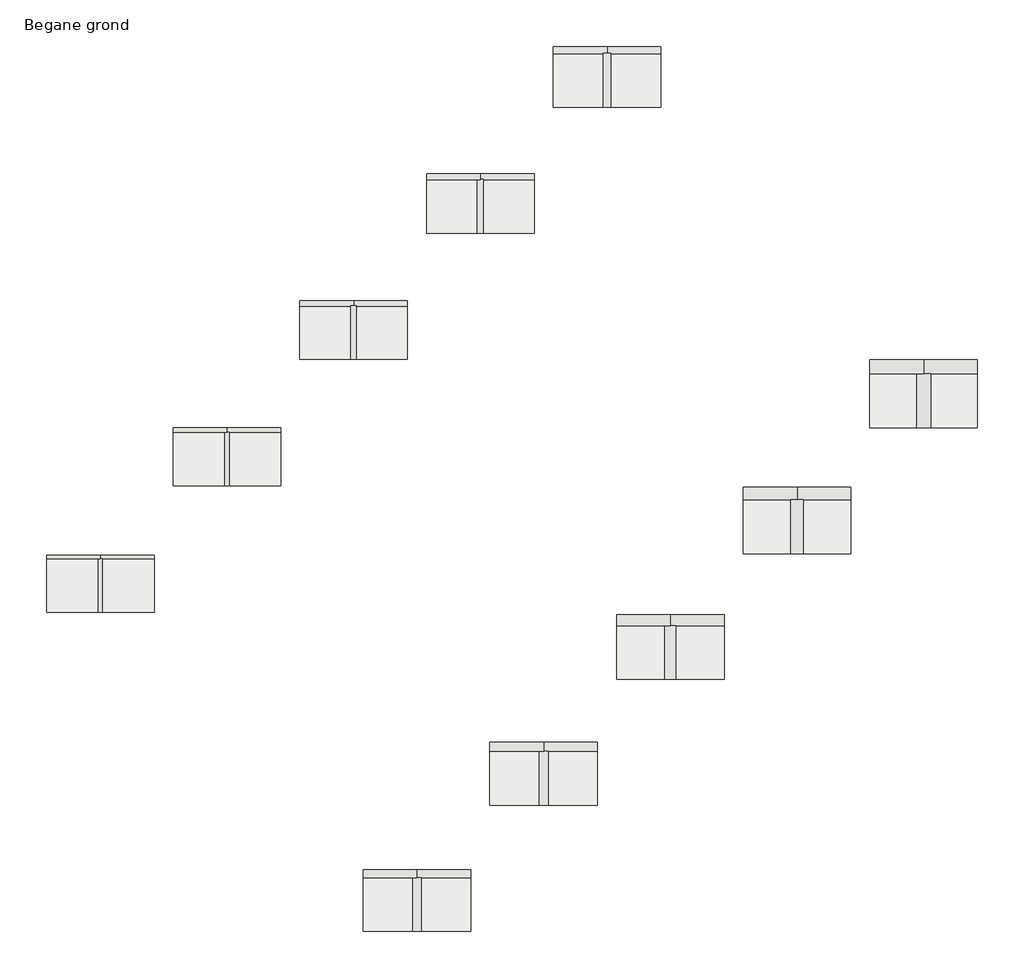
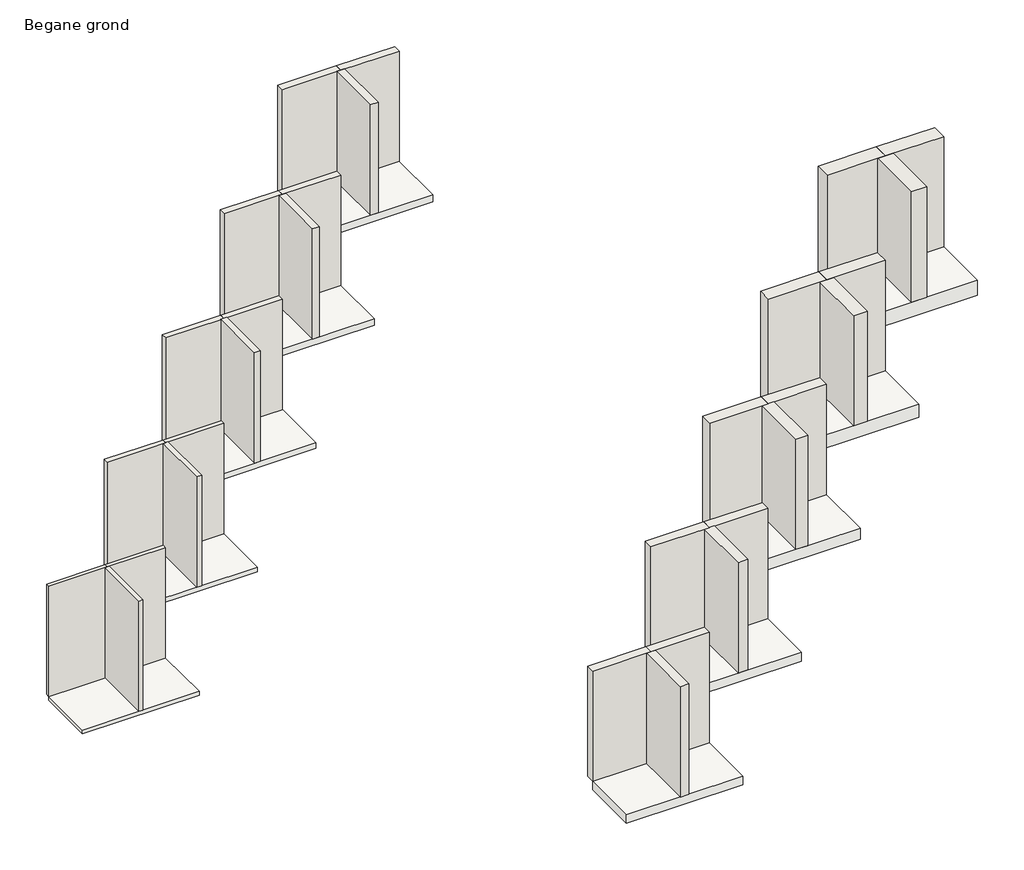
# One storey: 30 walls, 10 slabs.
"""IFC4 building model written with IfcOpenShell, lengths in millimetres."""

from ifc_helpers import new_model, si_unit, frame, origin, origin_with_axes, place, context, project, spatial, polyline, outline, extrude, element, save

model = new_model("IFC4")

# Units and contexts
model_context = context("Model", 3, world=origin())
ifc_project = project(units=[si_unit("LENGTHUNIT", "METRE", prefix="MILLI")], contexts=[model_context])

# Site, building, storey
site = spatial("IfcSite", under=ifc_project)
building = spatial("IfcBuilding", under=site)
storey = spatial("IfcBuildingStorey", under=building, Name="Begane grond", Elevation=0.0)

# Slabs
placement = place(None, origin())
element("IfcSlab", 1, ObjectType="NLRS_23_FL_Rock4all_100x600x1200mm", at=placement, inside=storey, context=model_context, shape_type="SweptSolid", body=[
    extrude(outline(polyline([(7096.3838542, 322.4422537), (7096.3838542, -277.5577463), (5896.3838542, -277.5577463), (5896.3838542, 322.4422537), (7096.3838542, 322.4422537)])), frame((0.0, 0.0, -100.0), z_axis=(0.0, 0.0, 1.0), x_axis=(1.0, 0.0, 0.0)), (0.0, 0.0, 1.0), 100.0),
])
element("IfcSlab", 2, ObjectType="NLRS_23_FL_Rock4all_120x600x1200mm", at=placement, inside=storey, context=model_context, shape_type="SweptSolid", body=[
    extrude(outline(polyline([(8510.5974166, 1726.655816), (8510.5974166, 1126.655816), (7310.5974166, 1126.655816), (7310.5974166, 1726.655816), (8510.5974166, 1726.655816)])), frame((0.0, 0.0, -120.0), z_axis=(0.0, 0.0, 1.0), x_axis=(1.0, 0.0, 0.0)), (0.0, 0.0, 1.0), 120.0),
])
element("IfcSlab", 3, ObjectType="NLRS_23_FL_Rock4all_140x600x1200mm", at=placement, inside=storey, context=model_context, shape_type="SweptSolid", body=[
    extrude(outline(polyline([(9924.810979, 3130.8693784), (9924.810979, 2530.8693784), (8724.810979, 2530.8693784), (8724.810979, 3130.8693784), (9924.810979, 3130.8693784)])), frame((0.0, 0.0, -140.0), z_axis=(0.0, 0.0, 1.0), x_axis=(1.0, 0.0, 0.0)), (0.0, 0.0, 1.0), 140.0),
])
element("IfcSlab", 4, ObjectType="NLRS_23_FL_Rock4all_160x600x1200mm", at=placement, inside=storey, context=model_context, shape_type="SweptSolid", body=[
    extrude(outline(polyline([(11339.0245414, 4535.0829408), (11339.0245414, 3935.0829408), (10139.0245414, 3935.0829408), (10139.0245414, 4535.0829408), (11339.0245414, 4535.0829408)])), frame((0.0, 0.0, -160.0), z_axis=(0.0, 0.0, 1.0), x_axis=(1.0, 0.0, 0.0)), (0.0, 0.0, 1.0), 160.0),
])
element("IfcSlab", 5, ObjectType="NLRS_23_FL_Rock4all_40x600x1200mm", at=placement, inside=storey, context=model_context, shape_type="SweptSolid", body=[
    extrude(outline(polyline([(946.6363859, 2473.7625972), (2146.6363859, 2473.7625972), (2146.6363859, 1873.7625972), (946.6363859, 1873.7625972), (946.6363859, 2473.7625972)])), frame((0.0, 0.0, -40.0), z_axis=(0.0, 0.0, 1.0), x_axis=(1.0, 0.0, 0.0)), (0.0, 0.0, 1.0), 40.0),
])
element("IfcSlab", 6, ObjectType="NLRS_23_FL_Rock4all_50x600x1200mm", at=placement, inside=storey, context=model_context, shape_type="SweptSolid", body=[
    extrude(outline(polyline([(2360.8499483, 3885.4761596), (3560.8499483, 3885.4761596), (3560.8499483, 3285.4761596), (2360.8499483, 3285.4761596), (2360.8499483, 3885.4761596)])), frame((0.0, 0.0, -50.0), z_axis=(0.0, 0.0, 1.0), x_axis=(1.0, 0.0, 0.0)), (0.0, 0.0, 1.0), 50.0),
])
element("IfcSlab", 7, ObjectType="NLRS_23_FL_Rock4all_60x600x1200mm", at=placement, inside=storey, context=model_context, shape_type="SweptSolid", body=[
    extrude(outline(polyline([(3775.0635107, 5297.189722), (4975.0635107, 5297.189722), (4975.0635107, 4697.189722), (3775.0635107, 4697.189722), (3775.0635107, 5297.189722)])), frame((0.0, 0.0, -60.0), z_axis=(0.0, 0.0, 1.0), x_axis=(1.0, 0.0, 0.0)), (0.0, 0.0, 1.0), 60.0),
])
element("IfcSlab", 8, ObjectType="NLRS_23_FL_Rock4all_70x600x1200mm", at=placement, inside=storey, context=model_context, shape_type="SweptSolid", body=[
    extrude(outline(polyline([(5189.2770731, 6706.4032843), (6389.2770731, 6706.4032843), (6389.2770731, 6106.4032843), (5189.2770731, 6106.4032843), (5189.2770731, 6706.4032843)])), frame((0.0, 0.0, -70.0), z_axis=(0.0, 0.0, 1.0), x_axis=(1.0, 0.0, 0.0)), (0.0, 0.0, 1.0), 70.0),
])
element("IfcSlab", 9, ObjectType="NLRS_23_FL_Rock4all_80x600x1200mm", at=placement, inside=storey, context=model_context, shape_type="SweptSolid", body=[
    extrude(outline(polyline([(7803.4906354, 8115.6168467), (7803.4906354, 7515.6168467), (6603.4906354, 7515.6168467), (6603.4906354, 8115.6168467), (7803.4906354, 8115.6168467)])), frame((0.0, 0.0, -80.0), z_axis=(0.0, 0.0, 1.0), x_axis=(1.0, 0.0, 0.0)), (0.0, 0.0, 1.0), 80.0),
])
element("IfcSlab", 10, ObjectType="NLRS_23_FL_Rock4all_90x600x1200mm", at=placement, inside=storey, context=model_context, shape_type="SweptSolid", body=[
    extrude(outline(polyline([(5682.1702919, -1086.7713087), (5682.1702919, -1686.7713087), (4482.1702919, -1686.7713087), (4482.1702919, -1086.7713087), (5682.1702919, -1086.7713087)])), frame((0.0, 0.0, -90.0), z_axis=(0.0, 0.0, 1.0), x_axis=(1.0, 0.0, 0.0)), (0.0, 0.0, 1.0), 90.0),
])

# Walls
element("IfcWall", 11, ObjectType="NLRS_22_WA_Rock4all_100x600x1200mm", at=placement, inside=storey, context=model_context, shape_type="SweptSolid", body=[
    extrude(outline(polyline([(6496.3838542, 322.4422537), (5896.3838542, 322.4422537), (5896.3838542, 422.4422537), (6496.3838542, 422.4422537), (6496.3838542, 322.4422537)])), origin_with_axes(), (0.0, 0.0, 1.0), 1200.0),
])
element("IfcWall", 12, ObjectType="NLRS_22_WA_Rock4all_100x600x1200mm", at=placement, inside=storey, context=model_context, shape_type="SweptSolid", body=[
    extrude(outline(polyline([(6446.3838542, -277.5577463), (6446.3838542, 322.4422537), (6546.3838542, 322.4422537), (6546.3838542, -277.5577463), (6446.3838542, -277.5577463)])), origin_with_axes(), (0.0, 0.0, 1.0), 1200.0),
])
element("IfcWall", 13, ObjectType="NLRS_22_WA_Rock4all_100x600x1200mm", at=placement, inside=storey, context=model_context, shape_type="SweptSolid", body=[
    extrude(outline(polyline([(7096.3838542, 322.4422537), (6496.3838542, 322.4422537), (6496.3838542, 422.4422537), (7096.3838542, 422.4422537), (7096.3838542, 322.4422537)])), origin_with_axes(), (0.0, 0.0, 1.0), 1200.0),
])
element("IfcWall", 14, ObjectType="NLRS_22_WA_Rock4all_120x600x1200mm", at=placement, inside=storey, context=model_context, shape_type="SweptSolid", body=[
    extrude(outline(polyline([(7910.5974166, 1726.655816), (7310.5974166, 1726.655816), (7310.5974166, 1846.655816), (7910.5974166, 1846.655816), (7910.5974166, 1726.655816)])), origin_with_axes(), (0.0, 0.0, 1.0), 1200.0),
])
element("IfcWall", 15, ObjectType="NLRS_22_WA_Rock4all_120x600x1200mm", at=placement, inside=storey, context=model_context, shape_type="SweptSolid", body=[
    extrude(outline(polyline([(7850.5974166, 1126.655816), (7850.5974166, 1726.655816), (7970.5974166, 1726.655816), (7970.5974166, 1126.655816), (7850.5974166, 1126.655816)])), origin_with_axes(), (0.0, 0.0, 1.0), 1200.0),
])
element("IfcWall", 16, ObjectType="NLRS_22_WA_Rock4all_120x600x1200mm", at=placement, inside=storey, context=model_context, shape_type="SweptSolid", body=[
    extrude(outline(polyline([(8510.5974166, 1726.655816), (7910.5974166, 1726.655816), (7910.5974166, 1846.655816), (8510.5974166, 1846.655816), (8510.5974166, 1726.655816)])), origin_with_axes(), (0.0, 0.0, 1.0), 1200.0),
])
element("IfcWall", 17, ObjectType="NLRS_22_WA_Rock4all_140x600x1200mm", at=placement, inside=storey, context=model_context, shape_type="SweptSolid", body=[
    extrude(outline(polyline([(9324.810979, 3130.8693784), (8724.810979, 3130.8693784), (8724.810979, 3270.8693784), (9324.810979, 3270.8693784), (9324.810979, 3130.8693784)])), origin_with_axes(), (0.0, 0.0, 1.0), 1200.0),
])
element("IfcWall", 18, ObjectType="NLRS_22_WA_Rock4all_140x600x1200mm", at=placement, inside=storey, context=model_context, shape_type="SweptSolid", body=[
    extrude(outline(polyline([(9254.810979, 2530.8693784), (9254.810979, 3130.8693784), (9394.810979, 3130.8693784), (9394.810979, 2530.8693784), (9254.810979, 2530.8693784)])), origin_with_axes(), (0.0, 0.0, 1.0), 1200.0),
])
element("IfcWall", 19, ObjectType="NLRS_22_WA_Rock4all_140x600x1200mm", at=placement, inside=storey, context=model_context, shape_type="SweptSolid", body=[
    extrude(outline(polyline([(9924.810979, 3130.8693784), (9324.810979, 3130.8693784), (9324.810979, 3270.8693784), (9924.810979, 3270.8693784), (9924.810979, 3130.8693784)])), origin_with_axes(), (0.0, 0.0, 1.0), 1200.0),
])
element("IfcWall", 20, ObjectType="NLRS_22_WA_Rock4all_160x600x1200mm", at=placement, inside=storey, context=model_context, shape_type="SweptSolid", body=[
    extrude(outline(polyline([(10739.0245414, 4535.0829408), (10139.0245414, 4535.0829408), (10139.0245414, 4695.0829408), (10739.0245414, 4695.0829408), (10739.0245414, 4535.0829408)])), origin_with_axes(), (0.0, 0.0, 1.0), 1200.0),
])
element("IfcWall", 21, ObjectType="NLRS_22_WA_Rock4all_160x600x1200mm", at=placement, inside=storey, context=model_context, shape_type="SweptSolid", body=[
    extrude(outline(polyline([(10659.0245414, 3935.0829408), (10659.0245414, 4535.0829408), (10819.0245414, 4535.0829408), (10819.0245414, 3935.0829408), (10659.0245414, 3935.0829408)])), origin_with_axes(), (0.0, 0.0, 1.0), 1200.0),
])
element("IfcWall", 22, ObjectType="NLRS_22_WA_Rock4all_160x600x1200mm", at=placement, inside=storey, context=model_context, shape_type="SweptSolid", body=[
    extrude(outline(polyline([(11339.0245414, 4535.0829408), (10739.0245414, 4535.0829408), (10739.0245414, 4695.0829408), (11339.0245414, 4695.0829408), (11339.0245414, 4535.0829408)])), origin_with_axes(), (0.0, 0.0, 1.0), 1200.0),
])
element("IfcWall", 23, ObjectType="NLRS_22_WA_Rock4all_50xx600x1200mm", at=placement, inside=storey, context=model_context, shape_type="SweptSolid", body=[
    extrude(outline(polyline([(2960.8499483, 3882.9761596), (2360.8499483, 3882.9761596), (2360.8499483, 3932.9761596), (2960.8499483, 3932.9761596), (2960.8499483, 3882.9761596)])), origin_with_axes(), (0.0, 0.0, 1.0), 1200.0),
])
element("IfcWall", 24, ObjectType="NLRS_22_WA_Rock4all_50xx600x1200mm", at=placement, inside=storey, context=model_context, shape_type="SweptSolid", body=[
    extrude(outline(polyline([(2935.8499483, 3285.4761596), (2935.8499483, 3885.4761596), (2985.8499483, 3885.4761596), (2985.8499483, 3285.4761596), (2935.8499483, 3285.4761596)])), origin_with_axes(), (0.0, 0.0, 1.0), 1200.0),
])
element("IfcWall", 25, ObjectType="NLRS_22_WA_Rock4all_50xx600x1200mm", at=placement, inside=storey, context=model_context, shape_type="SweptSolid", body=[
    extrude(outline(polyline([(3560.8499483, 3882.9761596), (2960.8499483, 3882.9761596), (2960.8499483, 3932.9761596), (3560.8499483, 3932.9761596), (3560.8499483, 3882.9761596)])), origin_with_axes(), (0.0, 0.0, 1.0), 1200.0),
])
element("IfcWall", 26, ObjectType="NLRS_22_WA_Rock4all_70x600x1200mm", at=placement, inside=storey, context=model_context, shape_type="SweptSolid", body=[
    extrude(outline(polyline([(5789.2770731, 6701.4032843), (5189.2770731, 6701.4032843), (5189.2770731, 6771.4032843), (5789.2770731, 6771.4032843), (5789.2770731, 6701.4032843)])), origin_with_axes(), (0.0, 0.0, 1.0), 1200.0),
])
element("IfcWall", 27, ObjectType="NLRS_22_WA_Rock4all_70x600x1200mm", at=placement, inside=storey, context=model_context, shape_type="SweptSolid", body=[
    extrude(outline(polyline([(5754.2770731, 6106.4032843), (5754.2770731, 6706.4032843), (5824.2770731, 6706.4032843), (5824.2770731, 6106.4032843), (5754.2770731, 6106.4032843)])), origin_with_axes(), (0.0, 0.0, 1.0), 1200.0),
])
element("IfcWall", 28, ObjectType="NLRS_22_WA_Rock4all_70x600x1200mm", at=placement, inside=storey, context=model_context, shape_type="SweptSolid", body=[
    extrude(outline(polyline([(6389.2770731, 6701.4032843), (5789.2770731, 6701.4032843), (5789.2770731, 6771.4032843), (6389.2770731, 6771.4032843), (6389.2770731, 6701.4032843)])), origin_with_axes(), (0.0, 0.0, 1.0), 1200.0),
])
element("IfcWall", 29, ObjectType="NLRS_22_WA_Rock4all_80x600x1200mm", at=placement, inside=storey, context=model_context, shape_type="SweptSolid", body=[
    extrude(outline(polyline([(7203.4906354, 8110.6168467), (6603.4906354, 8110.6168467), (6603.4906354, 8190.6168467), (7203.4906354, 8190.6168467), (7203.4906354, 8110.6168467)])), origin_with_axes(), (0.0, 0.0, 1.0), 1200.0),
])
element("IfcWall", 30, ObjectType="NLRS_22_WA_Rock4all_80x600x1200mm", at=placement, inside=storey, context=model_context, shape_type="SweptSolid", body=[
    extrude(outline(polyline([(7163.4906354, 7515.6168467), (7163.4906354, 8115.6168467), (7243.4906354, 8115.6168467), (7243.4906354, 7515.6168467), (7163.4906354, 7515.6168467)])), origin_with_axes(), (0.0, 0.0, 1.0), 1200.0),
])
element("IfcWall", 31, ObjectType="NLRS_22_WA_Rock4all_80x600x1200mm", at=placement, inside=storey, context=model_context, shape_type="SweptSolid", body=[
    extrude(outline(polyline([(7803.4906354, 8110.6168467), (7203.4906354, 8110.6168467), (7203.4906354, 8190.6168467), (7803.4906354, 8190.6168467), (7803.4906354, 8110.6168467)])), origin_with_axes(), (0.0, 0.0, 1.0), 1200.0),
])
element("IfcWall", 32, ObjectType="NLRS_22_WA_Rock4all_90x100x1200mm", at=placement, inside=storey, context=model_context, shape_type="SweptSolid", body=[
    extrude(outline(polyline([(5082.1702919, -1086.7713087), (4482.1702919, -1086.7713087), (4482.1702919, -996.7713087), (5082.1702919, -996.7713087), (5082.1702919, -1086.7713087)])), origin_with_axes(), (0.0, 0.0, 1.0), 1200.0),
])
element("IfcWall", 33, ObjectType="NLRS_22_WA_Rock4all_90x100x1200mm", at=placement, inside=storey, context=model_context, shape_type="SweptSolid", body=[
    extrude(outline(polyline([(5037.1702919, -1686.7713087), (5037.1702919, -1086.7713087), (5127.1702919, -1086.7713087), (5127.1702919, -1686.7713087), (5037.1702919, -1686.7713087)])), origin_with_axes(), (0.0, 0.0, 1.0), 1200.0),
])
element("IfcWall", 34, ObjectType="NLRS_22_WA_Rock4all_90x100x1200mm", at=placement, inside=storey, context=model_context, shape_type="SweptSolid", body=[
    extrude(outline(polyline([(5682.1702919, -1086.7713087), (5082.1702919, -1086.7713087), (5082.1702919, -996.7713087), (5682.1702919, -996.7713087), (5682.1702919, -1086.7713087)])), origin_with_axes(), (0.0, 0.0, 1.0), 1200.0),
])
element("IfcWall", 35, ObjectType="NLRS_22_WA__Rock4all_40x600x1200mm", at=placement, inside=storey, context=model_context, shape_type="SweptSolid", body=[
    extrude(outline(polyline([(1546.6363859, 2473.7625972), (946.6363859, 2473.7625972), (946.6363859, 2513.7625972), (1546.6363859, 2513.7625972), (1546.6363859, 2473.7625972)])), origin_with_axes(), (0.0, 0.0, 1.0), 1200.0),
])
element("IfcWall", 36, ObjectType="NLRS_22_WA__Rock4all_40x600x1200mm", at=placement, inside=storey, context=model_context, shape_type="SweptSolid", body=[
    extrude(outline(polyline([(1526.6363859, 1873.7625972), (1526.6363859, 2473.7625972), (1566.6363859, 2473.7625972), (1566.6363859, 1873.7625972), (1526.6363859, 1873.7625972)])), origin_with_axes(), (0.0, 0.0, 1.0), 1200.0),
])
element("IfcWall", 37, ObjectType="NLRS_22_WA__Rock4all_40x600x1200mm", at=placement, inside=storey, context=model_context, shape_type="SweptSolid", body=[
    extrude(outline(polyline([(2146.6363859, 2473.7625972), (1546.6363859, 2473.7625972), (1546.6363859, 2513.7625972), (2146.6363859, 2513.7625972), (2146.6363859, 2473.7625972)])), origin_with_axes(), (0.0, 0.0, 1.0), 1200.0),
])
element("IfcWall", 38, ObjectType="NLRS_22_WA__Rock4all_60x600x1200mm", at=placement, inside=storey, context=model_context, shape_type="SweptSolid", body=[
    extrude(outline(polyline([(4375.0635107, 5292.189722), (3775.0635107, 5292.189722), (3775.0635107, 5352.189722), (4375.0635107, 5352.189722), (4375.0635107, 5292.189722)])), origin_with_axes(), (0.0, 0.0, 1.0), 1200.0),
])
element("IfcWall", 39, ObjectType="NLRS_22_WA__Rock4all_60x600x1200mm", at=placement, inside=storey, context=model_context, shape_type="SweptSolid", body=[
    extrude(outline(polyline([(4345.0635107, 4697.189722), (4345.0635107, 5297.189722), (4405.0635107, 5297.189722), (4405.0635107, 4697.189722), (4345.0635107, 4697.189722)])), origin_with_axes(), (0.0, 0.0, 1.0), 1200.0),
])
element("IfcWall", 40, ObjectType="NLRS_22_WA__Rock4all_60x600x1200mm", at=placement, inside=storey, context=model_context, shape_type="SweptSolid", body=[
    extrude(outline(polyline([(4975.0635107, 5292.189722), (4375.0635107, 5292.189722), (4375.0635107, 5352.189722), (4975.0635107, 5352.189722), (4975.0635107, 5292.189722)])), origin_with_axes(), (0.0, 0.0, 1.0), 1200.0),
])

save(model, "model.ifc")
